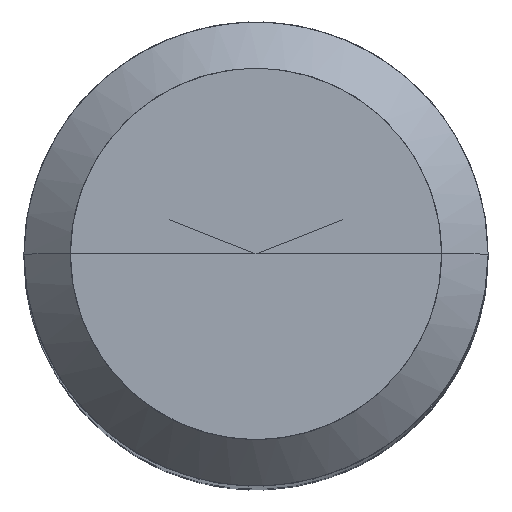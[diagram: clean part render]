
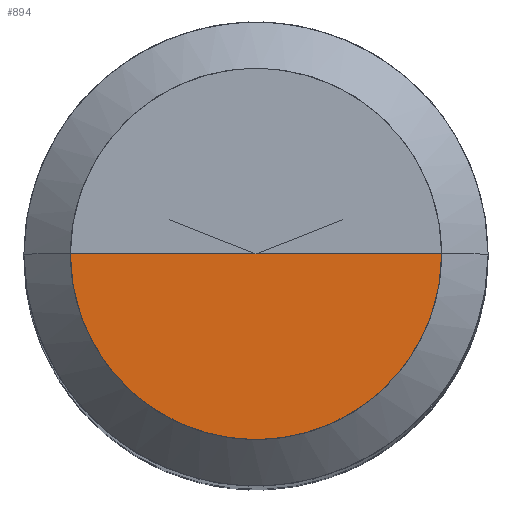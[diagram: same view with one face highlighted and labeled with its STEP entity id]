
A CAD part, top view. The second image highlights one B-rep face of the part: STEP entity #894.
In plain terms, the highlighted free-form (B-spline) face has degree [1, 2] with [2, 5] control points.
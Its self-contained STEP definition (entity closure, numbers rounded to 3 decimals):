
#625=CARTESIAN_POINT('',(4.0,0.0,37.0));
#629=CARTESIAN_POINT('',(-4.0,0.0,37.0));
#630=CARTESIAN_POINT('',(0.0,0.0,37.0));
#634=CARTESIAN_POINT('',(-4.0,-4.0,37.0));
#635=CARTESIAN_POINT('',(0.0,-4.0,37.0));
#636=CARTESIAN_POINT('',(4.0,-4.0,37.0));
#879=(
BOUNDED_SURFACE()
B_SPLINE_SURFACE(1,2,(
(#629,#634,#635,#636,#625),
(#630,#630,#630,#630,#630)
), .UNSPECIFIED.,.F.,.F.,.F.)
B_SPLINE_SURFACE_WITH_KNOTS((2,2),(3,2,3),(
0.0,1.0),(
0.0,0.5,1.0), .UNSPECIFIED.)
GEOMETRIC_REPRESENTATION_ITEM()
RATIONAL_B_SPLINE_SURFACE(((1.0,0.707,1.0,0.707,1.0),
(1.0,0.707,1.0,0.707,1.0)
))
REPRESENTATION_ITEM('')
SURFACE()
);
#880=(
BOUNDED_CURVE()
B_SPLINE_CURVE(2,(#625,#636,#635,#634,#629),.UNSPECIFIED.,.F.,.F.)
B_SPLINE_CURVE_WITH_KNOTS((3,2,3),
(0.0,0.5,1.0),.UNSPECIFIED.)
CURVE()
GEOMETRIC_REPRESENTATION_ITEM()
RATIONAL_B_SPLINE_CURVE((1.0,0.707,1.0,0.707,1.0))
REPRESENTATION_ITEM('')
);
#881=(
BOUNDED_CURVE()
B_SPLINE_CURVE(1,(#629,#630),.UNSPECIFIED.,.F.,.F.)
B_SPLINE_CURVE_WITH_KNOTS((2,2),
(0.0,1.0),.UNSPECIFIED.)
CURVE()
GEOMETRIC_REPRESENTATION_ITEM()
RATIONAL_B_SPLINE_CURVE((1.0,1.0))
REPRESENTATION_ITEM('')
);
#882=(
BOUNDED_CURVE()
B_SPLINE_CURVE(1,(#630,#625),.UNSPECIFIED.,.F.,.F.)
B_SPLINE_CURVE_WITH_KNOTS((2,2),
(0.0,1.0),.UNSPECIFIED.)
CURVE()
GEOMETRIC_REPRESENTATION_ITEM()
RATIONAL_B_SPLINE_CURVE((1.0,1.0))
REPRESENTATION_ITEM('')
);
#883=VERTEX_POINT('',#625);
#884=VERTEX_POINT('',#629);
#885=VERTEX_POINT('',#630);
#886=EDGE_CURVE('',#883,#884,#880,.T.);
#887=EDGE_CURVE('',#884,#885,#881,.T.);
#888=EDGE_CURVE('',#885,#883,#882,.T.);
#889=ORIENTED_EDGE('',*,*,#886,.T.);
#890=ORIENTED_EDGE('',*,*,#887,.T.);
#891=ORIENTED_EDGE('',*,*,#888,.T.);
#892=EDGE_LOOP('',(#889,#890,#891));
#893=FACE_OUTER_BOUND('',#892,.T.);
#894=ADVANCED_FACE('',(#893),#879,.T.);
